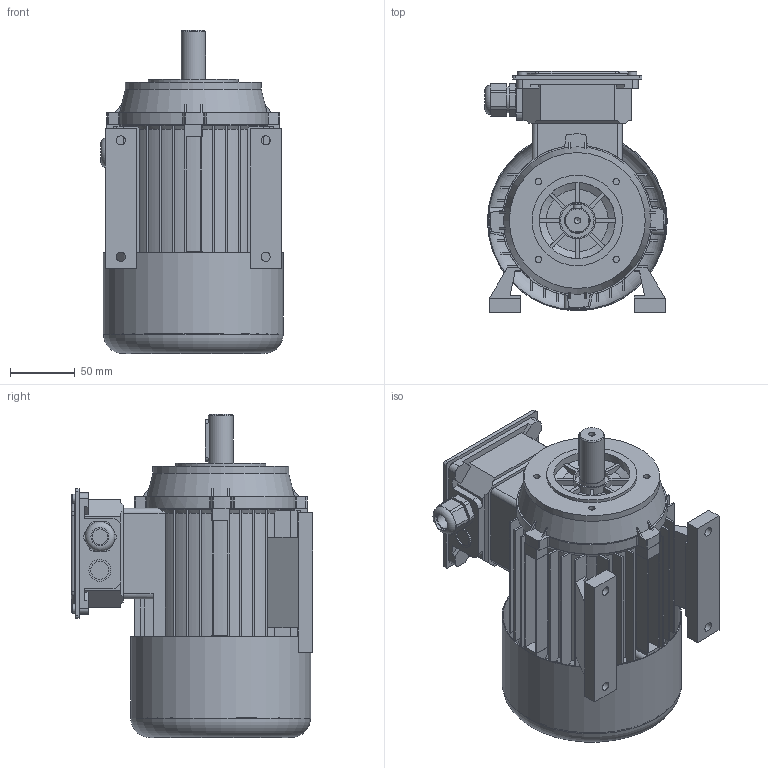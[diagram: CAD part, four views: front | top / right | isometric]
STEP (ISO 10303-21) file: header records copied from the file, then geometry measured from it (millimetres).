
FILE_DESCRIPTION(/* description */ (''),/* implementation_level */ '2;1');
FILE_NAME(/* name */ 'C:\Users\Public\Documents\Autodesk\Inventor LT 2014\Workspace\Componenti_ecoPM\2 - ECO5_71 (TG4)\ECO5_71_xxA1_xx.stp',/* time_stamp */ '2021-07-28T16:19:49+02:00',/* author */ ('marcor'),/* organization */ (''),/* preprocessor_version */ 'ST-DEVELOPER v15.2',/* originating_system */ 'Autodesk Inventor LT ',/* authorisation */ '');
FILE_SCHEMA (('AUTOMOTIVE_DESIGN { 1 0 10303 214 3 1 1 }'));
Length unit declared in the file: millimetre
Products named in the file (1): ECO5_71_xxA1_xx_FULL
Bounding box: 141 x 186.4 x 249.7 mm (x, y, z)
Volume: 2250501.8 mm3; surface area: 298093 mm2
Topology: 2 solids, 6 shells, 659 faces, 1736 edges, 1132 vertices
Faces by surface type: plane 441, cylinder 172, cone 34, bspline 8, torus 4
Full cylindrical faces by diameter (mm): 3 x4, 3.2 x4, 4.917 x5, 7 x8, 7.5 x4, 12 x1, 13.95 x2, 14 x1, 17 x2, 18 x1, 19 x1, 19.9 x1, 20 x2, 23.5 x1, 26 x2, 28 x1, 28.8 x1, 58.8 x1, 70 x1, 75 x1, 105 x1, 106.2 x1, 137.8 x1, 139 x1
Entity records: 19770 total; most frequent: CARTESIAN_POINT 3851, DIRECTION 3288, ORIENTED_EDGE 3274, EDGE_CURVE 1637, AXIS2_PLACEMENT_3D 1131, VERTEX_POINT 1104, LINE 1026, VECTOR 1026
